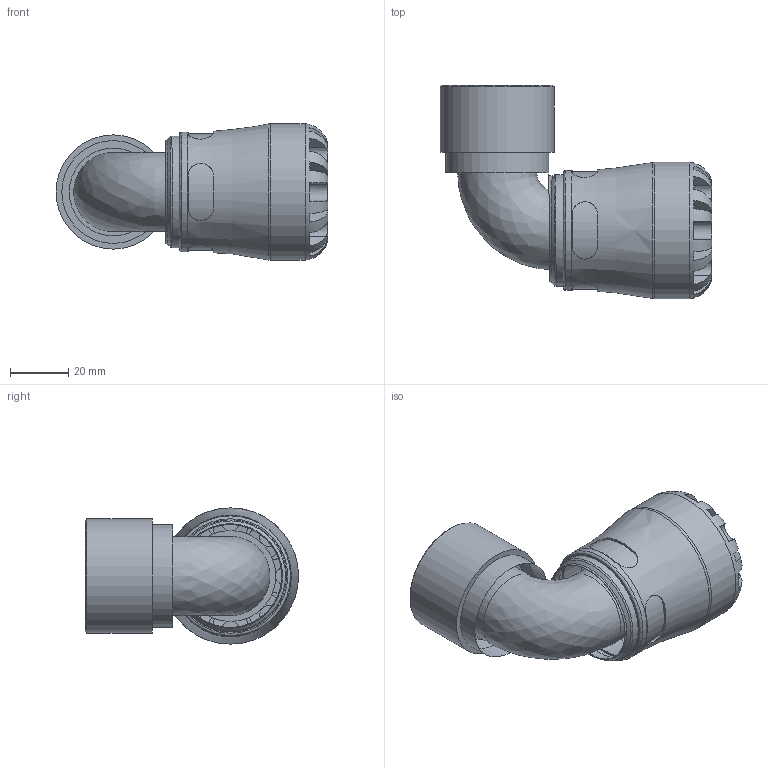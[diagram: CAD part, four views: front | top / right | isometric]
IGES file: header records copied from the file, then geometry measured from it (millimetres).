
Global section: file name: 101500025010_191500025010.ipt; native system: Autodesk Inventor 2015; preprocessor: unknown; author: KIM; date: 20170730.115215; units: millimetre
Bounding box: 93.69 x 73.5 x 47 mm (x, y, z)
Volume: 79761 mm3; surface area: 27507.9 mm2
Topology: 1 solids, 1 shells, 110 faces, 280 edges, 177 vertices
Faces by surface type: plane 62, revolution 26, cylinder 17, bspline 4, cone 1
Full cylindrical faces by diameter (mm): 35.44 x1, 38.54 x1, 39.378 x1, 41.36 x1, 47 x1
